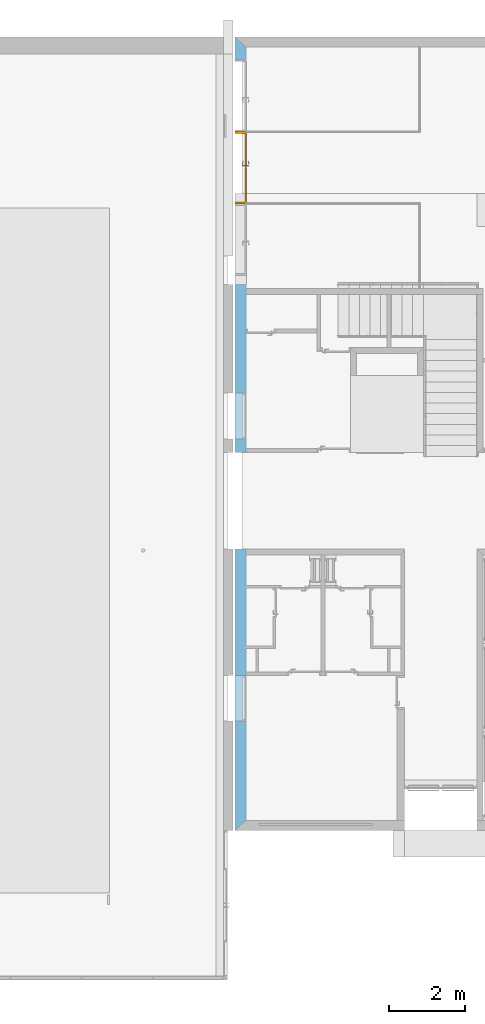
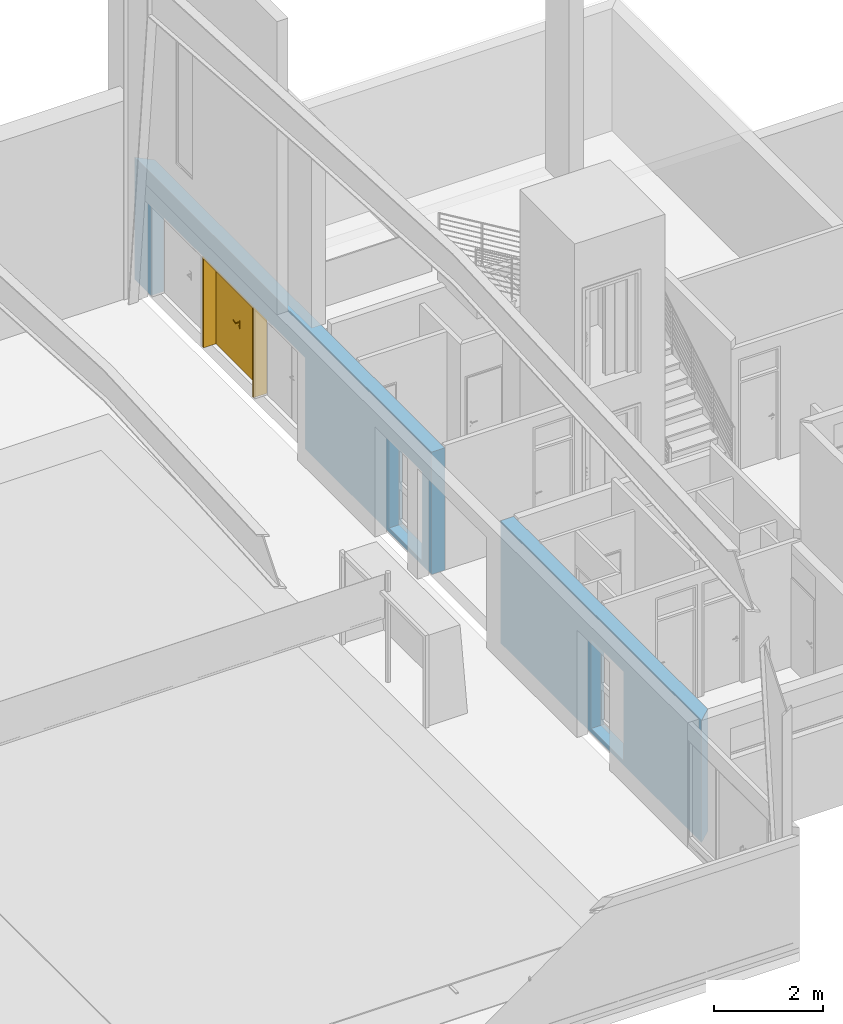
# One storey, part 35 of 45: 1 door, 6 openings, plus 1 element that does not belong to this part.
"""IFC2X3 building model written with IfcOpenShell, lengths in metres."""

from ifc_helpers import new_model, entity, si_unit, converted_unit, money_unit, direction, frame, origin_with_axes, place, context, subcontext, project, spatial, polyline, outline, extrude, open_shell, faceted_brep, surface_model, material, layer, layer_set, layer_usage, type_object, element, fill, save


model = new_model("IFC2X3")

# Units and contexts
model_context = context("Model", 3, precision=1e-05, world=origin_with_axes(), true_north=direction((0.0, 1.0)))
body_context = subcontext(model_context, "Body", "Model", "MODEL_VIEW")
ifc_project = project(units=[si_unit("LENGTHUNIT", "METRE"), si_unit("AREAUNIT", "SQUARE_METRE"), si_unit("VOLUMEUNIT", "CUBIC_METRE"), converted_unit("PLANEANGLEUNIT", "DEGREE", entity("IfcPlaneAngleMeasure", 0.0174532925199), si_unit("PLANEANGLEUNIT", "RADIAN"), dimensions=[0, 0, 0, 0, 0, 0, 0]), si_unit("SOLIDANGLEUNIT", "STERADIAN"), money_unit("EUR"), converted_unit("TIMEUNIT", "Year", entity("IfcTimeMeasure", 31556926.0), si_unit("TIMEUNIT", "SECOND"), dimensions=[0, 0, 0, 0, 0, 0, 0]), si_unit("MASSUNIT", "GRAM"), si_unit("THERMODYNAMICTEMPERATUREUNIT", "DEGREE_CELSIUS"), si_unit("LUMINOUSINTENSITYUNIT", "LUMEN")], contexts=[model_context])

# Site, building, storey
site_placement = place(None, origin_with_axes())
site = spatial("IfcSite", under=ifc_project, at=site_placement, Name="Site", CompositionType="ELEMENT")
building_placement = place(site_placement, origin_with_axes())
building = spatial("IfcBuilding", under=site, at=building_placement, Name="Bâtiment", CompositionType="ELEMENT")
storey_placement = place(building_placement, origin_with_axes())
storey = spatial("IfcBuildingStorey", under=building, at=storey_placement, Name="NIVEAU BAS GYMNASE", CompositionType="ELEMENT", Elevation=0.0)

# Wall, openings, door
ifc_material_1 = material(Name="Hachure solide* 3992800808")
ifc_layer_1 = layer(ifc_material_1, 0.02, ventilated="UNKNOWN")
ifc_material_2 = material(Name="Empty Fill 290923149")
ifc_layer_2 = layer(ifc_material_2, 0.08, ventilated="UNKNOWN")
ifc_material_3 = material(Name="Hachure solide* 2593434267")
ifc_layer_3 = layer(ifc_material_3, 0.18, ventilated="UNKNOWN")
ifc_layer_set = layer_set([ifc_layer_1, ifc_layer_2, ifc_layer_3], Name="•GYMN 18+10")
ifc_layer_usage = layer_usage(ifc_layer_set, "AXIS2", "POSITIVE", -0.28)
wall_type = type_object("IfcWallType", Name="•GYMN 18+10 280", PredefinedType="NOTDEFINED")
wall_placement = place(storey_placement, frame((45.478457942, 5.86881571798, 0.0), z_axis=(0.0, 0.0, 1.0), x_axis=(0.0, 1.0, 0.0)))
wall = element("IfcWallStandardCase", 1, at=wall_placement, inside=storey, type_object=wall_type, material=ifc_layer_usage, Name="Mur-021", context=body_context, shape_type="SweptSolid", body=[
    extrude(outline(polyline([(0.26, -0.28), (20.6103001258, -0.28), (20.8703001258, 0.0), (0.0, 0.0), (0.26, -0.28)])), origin_with_axes(), (0.0, 0.0, 1.0), 2.75),
])
opening_1_placement = place(wall_placement, frame((3.47, 0.0, 0.1), z_axis=(0.0, 0.0, 1.0), x_axis=(1.0, 0.0, 0.0)))
element("IfcOpeningElement", 2, at=opening_1_placement, cuts=wall, Name="Fen-005", context=body_context, shape_type="SweptSolid", body=[
    extrude(outline(polyline([(0.6, -2.0), (0.6, 0.0), (-0.6, 0.0), (-0.6, -2.0), (0.6, -2.0)])), frame((0.0, -0.28, 0.0), z_axis=(0.0, -1.0, 0.0), x_axis=(-1.0, 0.0, 0.0)), (0.0, 0.0, 1.0), 0.28),
    extrude(outline(polyline([(0.6, 0.0), (0.6, 2.0), (-0.6, 2.0), (-0.6, 0.0), (0.6, 0.0)])), frame((0.0, -0.28, 0.0), z_axis=(0.0, 1.0, 0.0), x_axis=(-1.0, 0.0, 0.0)), (0.0, 0.0, 1.0), 0.28),
])
opening_2_placement = place(wall_placement, frame((10.9011451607, 0.0, 0.1), z_axis=(0.0, 0.0, 1.0), x_axis=(1.0, 0.0, 0.0)))
element("IfcOpeningElement", 3, at=opening_2_placement, cuts=wall, Name="Fen-006", context=body_context, shape_type="SweptSolid", body=[
    extrude(outline(polyline([(0.6, -2.0), (0.6, 0.0), (-0.6, 0.0), (-0.6, -2.0), (0.6, -2.0)])), frame((0.0, -0.28, 0.0), z_axis=(0.0, -1.0, 0.0), x_axis=(-1.0, 0.0, 0.0)), (0.0, 0.0, 1.0), 0.28),
    extrude(outline(polyline([(0.6, 0.0), (0.6, 2.0), (-0.6, 2.0), (-0.6, 0.0), (0.6, 0.0)])), frame((0.0, -0.28, 0.0), z_axis=(0.0, 1.0, 0.0), x_axis=(-1.0, 0.0, 0.0)), (0.0, 0.0, 1.0), 0.28),
])
opening_3_placement = place(wall_placement, frame((8.67, 0.0, 0.0), z_axis=(0.0, 0.0, 1.0), x_axis=(1.0, 0.0, 0.0)))
element("IfcOpeningElement", 4, at=opening_3_placement, cuts=wall, Name="Por-001", context=body_context, shape_type="SweptSolid", body=[
    extrude(outline(polyline([(-1.27, 2.771708), (-1.27, 0.0), (1.27, 0.0), (1.27, 2.771708), (-1.27, 2.771708)])), frame((0.0, -0.28, 0.0), z_axis=(0.0, -1.0, 0.0), x_axis=(1.0, 0.0, 0.0)), (0.0, 0.0, 1.0), 0.28),
    extrude(outline(polyline([(-1.27, 0.0), (-1.27, -2.771708), (1.27, -2.771708), (1.27, 0.0), (-1.27, 0.0)])), frame((0.0, -0.28, 0.0), z_axis=(0.0, 1.0, 0.0), x_axis=(1.0, 0.0, 0.0)), (0.0, 0.0, 1.0), 0.28),
])
opening_4_placement = place(wall_placement, frame((17.4351500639, 0.0, 0.0), z_axis=(0.0, 0.0, 1.0), x_axis=(1.0, 0.0, 0.0)))
opening_4 = element("IfcOpeningElement", 5, at=opening_4_placement, cuts=wall, Name="Por-017", context=body_context, shape_type="SweptSolid", body=[
    extrude(outline(polyline([(0.945, 0.0), (-0.945, 0.0), (-0.945, -2.045), (0.945, -2.045), (0.945, 0.0)])), frame((0.0, 0.28, 0.0), z_axis=(0.0, -1.0, 0.0), x_axis=(-1.0, 0.0, 0.0)), (0.0, 0.0, 1.0), 0.56),
])
opening_5_placement = place(wall_placement, frame((19.3251500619, 0.0, 0.0), z_axis=(0.0, 0.0, 1.0), x_axis=(1.0, 0.0, 0.0)))
element("IfcOpeningElement", 6, at=opening_5_placement, cuts=wall, Name="Por-017", context=body_context, shape_type="SweptSolid", body=[
    extrude(outline(polyline([(-0.945, 0.0), (-0.945, -2.045), (0.945, -2.045), (0.945, 0.0), (-0.945, 0.0)])), frame((0.0, 0.28, 0.0), z_axis=(0.0, -1.0, 0.0), x_axis=(-1.0, 0.0, 0.0)), (0.0, 0.0, 1.0), 0.56),
])
opening_6_placement = place(wall_placement, frame((15.5451500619, 0.0, 0.0), z_axis=(0.0, 0.0, 1.0), x_axis=(1.0, 0.0, 0.0)))
element("IfcOpeningElement", 7, at=opening_6_placement, cuts=wall, Name="Por-018", context=body_context, shape_type="SweptSolid", body=[
    extrude(outline(polyline([(-0.945, 0.0), (-0.945, -2.045), (0.945, -2.045), (0.945, 0.0), (-0.945, 0.0)])), frame((0.0, 0.28, 0.0), z_axis=(0.0, -1.0, 0.0), x_axis=(-1.0, 0.0, 0.0)), (0.0, 0.0, 1.0), 0.56),
])
ifc_material_4 = material(Name="Sans Trame")
door_style = type_object("IfcDoorStyle", Name="Porte int 2v inégaux", ConstructionType="NOTDEFINED", OperationType="NOTDEFINED", ParameterTakesPrecedence=False, Sizeable=False)
door_placement = place(opening_4_placement, frame((0.945000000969, 0.0, 0.0), z_axis=(0.0, 0.0, 1.0), x_axis=(-1.0, 0.0, 0.0)))
door = element("IfcDoor", 8, at=door_placement, inside=storey, type_object=door_style, material=ifc_material_4, Name="Por-017", OverallHeight=2.045, OverallWidth=1.89, context=body_context, shape_type="SurfaceModel", body=[
    faceted_brep([(1.93714910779e-09, 0.28, 0.0), (1.93714910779e-09, 0.28, 2.045), (1.89000000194, 0.28, 2.045), (1.89000000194, 0.28, 0.0), (1.86000000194, 0.28, 0.0), (1.86000000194, 0.28, 2.015), (0.0300000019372, 0.28, 2.015), (0.0300000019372, 0.28, 0.0), (1.93714910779e-09, 0.0, 0.0), (1.93714910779e-09, 0.0, 2.045), (1.89000000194, 0.0, 2.045), (1.89000000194, 0.0, 0.0), (1.84500000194, 0.0, 0.0), (1.84500000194, 0.265, 0.0), (1.86000000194, 0.265, 0.0), (1.86000000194, 0.265, 2.015), (0.0300000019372, 0.265, 2.015), (0.0300000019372, 0.265, 0.0), (0.0450000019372, 0.265, 0.0), (0.0450000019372, 0.0, 0.0), (0.0450000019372, 0.0, 2.0), (1.84500000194, 0.0, 2.0), (1.84500000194, 0.265, 2.0), (0.0450000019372, 0.265, 2.0)], [[[0, 1, 2, 3, 4, 5, 6, 7]], [[8, 9, 1, 0]], [[9, 10, 2, 1]], [[10, 11, 3, 2]], [[3, 11, 12, 13, 14, 4]], [[5, 4, 14, 15]], [[6, 5, 15, 16]], [[7, 6, 16, 17]], [[0, 7, 17, 18, 19, 8]], [[19, 20, 21, 12, 11, 10, 9, 8]], [[22, 13, 12, 21]], [[17, 16, 15, 14, 13, 22, 23, 18]], [[18, 23, 20, 19]], [[23, 22, 21, 20]]]),
    faceted_brep([(1.86000000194, 0.295, 0.0), (1.86000000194, 0.265, 0.0), (0.950000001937, 0.265, 0.0), (0.950000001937, 0.295, 0.0), (1.86000000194, 0.295, 2.015), (1.86000000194, 0.265, 2.015), (0.950000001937, 0.265, 2.015), (0.950000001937, 0.295, 2.015)], [[[0, 1, 2, 3]], [[4, 5, 1, 0]], [[1, 5, 6, 2]], [[3, 2, 6, 7]], [[0, 3, 7, 4]], [[7, 6, 5, 4]]]),
    faceted_brep([(0.0300000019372, 0.295, 0.0), (0.945000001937, 0.295, 0.0), (0.945000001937, 0.265, 0.0), (0.0300000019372, 0.265, 0.0), (0.0300000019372, 0.295, 2.015), (0.945000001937, 0.295, 2.015), (0.945000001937, 0.265, 2.015), (0.0300000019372, 0.265, 2.015)], [[[0, 1, 2, 3]], [[0, 4, 5, 1]], [[1, 5, 6, 2]], [[3, 2, 6, 7]], [[4, 0, 3, 7]], [[5, 4, 7, 6]]]),
    faceted_brep([(0.921000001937, 0.265, 1.06), (0.864000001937, 0.265, 1.06), (0.864000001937, 0.262, 1.06), (0.921000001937, 0.262, 1.06), (0.921000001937, 0.265, 0.87), (0.864000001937, 0.265, 0.87), (0.864000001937, 0.262, 0.87), (0.921000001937, 0.262, 0.87)], [[[0, 1, 2, 3]], [[0, 4, 5, 1]], [[1, 5, 6, 2]], [[3, 2, 6, 7]], [[4, 0, 3, 7]], [[5, 4, 7, 6]]]),
    surface_model("IfcShellBasedSurfaceModel", [(0.892500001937, 0.201, 0.99), (0.896327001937, 0.201, 0.990761), (0.896327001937, 0.194, 0.990761), (0.892500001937, 0.194, 0.99), (0.867500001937, 0.201, 0.99), (0.867500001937, 0.201, 1.01), (0.892500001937, 0.201, 1.01), (0.896327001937, 0.201, 1.009239), (0.899571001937, 0.201, 1.007071), (0.901739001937, 0.201, 1.003827), (0.902500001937, 0.201, 1.0), (0.901739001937, 0.201, 0.996173), (0.899571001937, 0.201, 0.992929), (0.899571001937, 0.194, 0.992929), (0.901739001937, 0.194, 0.996173), (0.902500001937, 0.194, 1.0), (0.901739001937, 0.194, 1.003827), (0.899571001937, 0.194, 1.007071), (0.896327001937, 0.194, 1.009239), (0.892500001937, 0.194, 1.01), (0.867500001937, 0.194, 1.01), (0.867500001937, 0.194, 0.99)], [open_shell([[[0, 1, 2, 3]], [[0, 4, 5, 6, 7, 8, 9, 10, 11, 12, 1]], [[1, 12, 13, 2]], [[3, 2, 13, 14, 15, 16, 17, 18, 19, 20, 21]], [[4, 0, 3, 21]], [[6, 5, 20, 19]], [[7, 6, 19, 18]], [[8, 7, 18, 17]], [[9, 8, 17, 16]], [[10, 9, 16, 15]], [[11, 10, 15, 14]], [[12, 11, 14, 13]]])]),
    surface_model("IfcShellBasedSurfaceModel", [(0.867500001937, 0.201, 1.01), (0.854402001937, 0.201, 1.009607), (0.854096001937, 0.194, 1.009607), (0.867500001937, 0.201, 0.99), (0.854402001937, 0.201, 0.990393), (0.827390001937, 0.196336, 1.008822), (0.867500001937, 0.194, 1.01), (0.867500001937, 0.194, 0.99), (0.828305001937, 0.203283, 0.991178), (0.828305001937, 0.203283, 1.008822), (0.827390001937, 0.196336, 0.991178), (0.854096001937, 0.194, 0.990393), (0.802506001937, 0.207832, 0.991963), (0.802506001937, 0.207832, 1.008037), (0.800990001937, 0.200992, 1.008037), (0.800990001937, 0.200992, 0.991963), (0.777202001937, 0.214612, 0.992749), (0.777202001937, 0.214612, 1.007251), (0.775095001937, 0.20793, 1.007251), (0.775095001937, 0.20793, 0.992749), (0.769329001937, 0.217478, 0.993), (0.769329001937, 0.217478, 1.007), (0.767039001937, 0.210862, 1.007), (0.767039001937, 0.210862, 0.993)], [open_shell([[[0, 1, 2]], [[0, 3, 4, 1]], [[1, 5, 2]], [[0, 2, 6]], [[4, 3, 7]], [[1, 4, 8, 9]], [[1, 9, 5]], [[2, 5, 10, 11]], [[6, 2, 11, 7]], [[4, 7, 11]], [[8, 4, 11]], [[9, 8, 12, 13]], [[9, 14, 5]], [[5, 14, 15, 10]], [[8, 11, 10]], [[12, 8, 10]], [[13, 12, 16, 17]], [[9, 13, 14]], [[14, 18, 19, 15]], [[12, 10, 15]], [[16, 12, 15]], [[17, 16, 20, 21]], [[13, 17, 18]], [[13, 18, 14]], [[18, 22, 23, 19]], [[16, 15, 19]], [[20, 16, 19]], [[21, 20, 23, 22]], [[17, 21, 22]], [[17, 22, 18]], [[20, 19, 23]]])]),
    faceted_brep([(0.881413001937, 0.252, 0.995408), (0.880500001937, 0.252, 1.0), (0.879500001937, 0.262, 1.0), (0.880490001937, 0.262, 0.995025), (0.884015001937, 0.252, 0.991515), (0.887908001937, 0.252, 0.988913), (0.892500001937, 0.252, 0.988), (0.897092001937, 0.252, 0.988913), (0.900985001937, 0.252, 0.991515), (0.903587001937, 0.252, 0.995408), (0.904500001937, 0.252, 1.0), (0.903587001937, 0.252, 1.004592), (0.900985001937, 0.252, 1.008485), (0.897092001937, 0.252, 1.011087), (0.892500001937, 0.252, 1.012), (0.887908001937, 0.252, 1.011087), (0.884015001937, 0.252, 1.008485), (0.881413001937, 0.252, 1.004592), (0.880490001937, 0.262, 1.004975), (0.883308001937, 0.262, 1.009192), (0.887525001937, 0.262, 1.01201), (0.892500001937, 0.262, 1.013), (0.897475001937, 0.262, 1.01201), (0.901692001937, 0.262, 1.009192), (0.904510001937, 0.262, 1.004975), (0.905500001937, 0.262, 1.0), (0.904510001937, 0.262, 0.995025), (0.901692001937, 0.262, 0.990808), (0.897475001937, 0.262, 0.98799), (0.892500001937, 0.262, 0.987), (0.887525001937, 0.262, 0.98799), (0.883308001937, 0.262, 0.990808)], [[[0, 1, 2, 3]], [[1, 0, 4, 5, 6, 7, 8, 9, 10, 11, 12, 13, 14, 15, 16, 17]], [[1, 17, 18, 2]], [[2, 18, 19, 20, 21, 22, 23, 24, 25, 26, 27, 28, 29, 30, 31, 3]], [[4, 0, 3, 31]], [[5, 4, 31, 30]], [[6, 5, 30, 29]], [[7, 6, 29, 28]], [[8, 7, 28, 27]], [[9, 8, 27, 26]], [[10, 9, 26, 25]], [[11, 10, 25, 24]], [[12, 11, 24, 23]], [[13, 12, 23, 22]], [[14, 13, 22, 21]], [[15, 14, 21, 20]], [[16, 15, 20, 19]], [[17, 16, 19, 18]]]),
    faceted_brep([(0.874022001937, 0.258, 0.897346), (0.872500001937, 0.258, 0.905), (0.870500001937, 0.262, 0.905), (0.872175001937, 0.262, 0.896581), (0.878358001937, 0.258, 0.890858), (0.884846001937, 0.258, 0.886522), (0.892500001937, 0.258, 0.885), (0.900154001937, 0.258, 0.886522), (0.906642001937, 0.258, 0.890858), (0.910978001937, 0.258, 0.897346), (0.912500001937, 0.258, 0.905), (0.910978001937, 0.258, 0.912654), (0.906642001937, 0.258, 0.919142), (0.900154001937, 0.258, 0.923478), (0.892500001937, 0.258, 0.925), (0.884846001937, 0.258, 0.923478), (0.878358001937, 0.258, 0.919142), (0.874022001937, 0.258, 0.912654), (0.872175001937, 0.262, 0.913419), (0.876944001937, 0.262, 0.920556), (0.884081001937, 0.262, 0.925325), (0.892500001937, 0.262, 0.927), (0.900919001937, 0.262, 0.925325), (0.908056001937, 0.262, 0.920556), (0.912825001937, 0.262, 0.913419), (0.914500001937, 0.262, 0.905), (0.912825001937, 0.262, 0.896581), (0.908056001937, 0.262, 0.889444), (0.900919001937, 0.262, 0.884675), (0.892500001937, 0.262, 0.883), (0.884081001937, 0.262, 0.884675), (0.876944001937, 0.262, 0.889444)], [[[0, 1, 2, 3]], [[1, 0, 4, 5, 6, 7, 8, 9, 10, 11, 12, 13, 14, 15, 16, 17]], [[1, 17, 18, 2]], [[2, 18, 19, 20, 21, 22, 23, 24, 25, 26, 27, 28, 29, 30, 31, 3]], [[4, 0, 3, 31]], [[5, 4, 31, 30]], [[6, 5, 30, 29]], [[7, 6, 29, 28]], [[8, 7, 28, 27]], [[9, 8, 27, 26]], [[10, 9, 26, 25]], [[11, 10, 25, 24]], [[12, 11, 24, 23]], [[13, 12, 23, 22]], [[14, 13, 22, 21]], [[15, 14, 21, 20]], [[16, 15, 20, 19]], [[17, 16, 19, 18]]]),
    faceted_brep([(0.886033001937, 0.256, 0.911321), (0.885500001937, 0.256, 0.914), (0.884500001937, 0.258, 0.914), (0.885109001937, 0.258, 0.910939), (0.887550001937, 0.256, 0.90905), (0.889821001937, 0.256, 0.907533), (0.892500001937, 0.256, 0.907), (0.895179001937, 0.256, 0.907533), (0.897450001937, 0.256, 0.90905), (0.898967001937, 0.256, 0.911321), (0.899500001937, 0.256, 0.914), (0.898967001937, 0.256, 0.916679), (0.897450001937, 0.256, 0.91895), (0.895179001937, 0.256, 0.920467), (0.892500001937, 0.256, 0.921), (0.889821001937, 0.256, 0.920467), (0.887550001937, 0.256, 0.91895), (0.886033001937, 0.256, 0.916679), (0.885109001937, 0.258, 0.917061), (0.886843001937, 0.258, 0.919657), (0.889439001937, 0.258, 0.921391), (0.892500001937, 0.258, 0.922), (0.895561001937, 0.258, 0.921391), (0.898157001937, 0.258, 0.919657), (0.899891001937, 0.258, 0.917061), (0.900500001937, 0.258, 0.914), (0.899891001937, 0.258, 0.910939), (0.898157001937, 0.258, 0.908343), (0.895561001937, 0.258, 0.906609), (0.892500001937, 0.258, 0.906), (0.889439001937, 0.258, 0.906609), (0.886843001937, 0.258, 0.908343)], [[[0, 1, 2, 3]], [[1, 0, 4, 5, 6, 7, 8, 9, 10, 11, 12, 13, 14, 15, 16, 17]], [[1, 17, 18, 2]], [[2, 18, 19, 20, 21, 22, 23, 24, 25, 26, 27, 28, 29, 30, 31, 3]], [[4, 0, 3, 31]], [[5, 4, 31, 30]], [[6, 5, 30, 29]], [[7, 6, 29, 28]], [[8, 7, 28, 27]], [[9, 8, 27, 26]], [[10, 9, 26, 25]], [[11, 10, 25, 24]], [[12, 11, 24, 23]], [[13, 12, 23, 22]], [[14, 13, 22, 21]], [[15, 14, 21, 20]], [[16, 15, 20, 19]], [[17, 16, 19, 18]]]),
    faceted_brep([(0.892500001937, 0.252, 1.01), (0.888673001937, 0.252, 1.009239), (0.888673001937, 0.201, 1.009239), (0.892500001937, 0.201, 1.01), (0.896327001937, 0.252, 1.009239), (0.899571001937, 0.252, 1.007071), (0.901739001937, 0.252, 1.003827), (0.902500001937, 0.252, 1.0), (0.901739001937, 0.252, 0.996173), (0.899571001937, 0.252, 0.992929), (0.896327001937, 0.252, 0.990761), (0.892500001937, 0.252, 0.99), (0.888673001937, 0.252, 0.990761), (0.885429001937, 0.252, 0.992929), (0.883261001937, 0.252, 0.996173), (0.882500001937, 0.252, 1.0), (0.883261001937, 0.252, 1.003827), (0.885429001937, 0.252, 1.007071), (0.885429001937, 0.201, 1.007071), (0.883261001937, 0.201, 1.003827), (0.882500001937, 0.201, 1.0), (0.883261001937, 0.201, 0.996173), (0.885429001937, 0.201, 0.992929), (0.888673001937, 0.201, 0.990761), (0.892500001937, 0.201, 0.99), (0.896327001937, 0.201, 0.990761), (0.899571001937, 0.201, 0.992929), (0.901739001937, 0.201, 0.996173), (0.902500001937, 0.201, 1.0), (0.901739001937, 0.201, 1.003827), (0.899571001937, 0.201, 1.007071), (0.896327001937, 0.201, 1.009239)], [[[0, 1, 2, 3]], [[0, 4, 5, 6, 7, 8, 9, 10, 11, 12, 13, 14, 15, 16, 17, 1]], [[1, 17, 18, 2]], [[3, 2, 18, 19, 20, 21, 22, 23, 24, 25, 26, 27, 28, 29, 30, 31]], [[4, 0, 3, 31]], [[5, 4, 31, 30]], [[6, 5, 30, 29]], [[7, 6, 29, 28]], [[8, 7, 28, 27]], [[9, 8, 27, 26]], [[10, 9, 26, 25]], [[11, 10, 25, 24]], [[12, 11, 24, 23]], [[13, 12, 23, 22]], [[14, 13, 22, 21]], [[15, 14, 21, 20]], [[16, 15, 20, 19]], [[17, 16, 19, 18]]]),
    faceted_brep([(0.921000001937, 0.295, 1.06), (0.921000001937, 0.298, 1.06), (0.864000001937, 0.298, 1.06), (0.864000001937, 0.295, 1.06), (0.921000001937, 0.295, 0.87), (0.921000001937, 0.298, 0.87), (0.864000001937, 0.298, 0.87), (0.864000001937, 0.295, 0.87)], [[[0, 1, 2, 3]], [[4, 5, 1, 0]], [[1, 5, 6, 2]], [[3, 2, 6, 7]], [[0, 3, 7, 4]], [[7, 6, 5, 4]]]),
    surface_model("IfcShellBasedSurfaceModel", [(0.892500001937, 0.359, 0.99), (0.892500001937, 0.366, 0.99), (0.896327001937, 0.366, 0.990761), (0.896327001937, 0.359, 0.990761), (0.867500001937, 0.359, 0.99), (0.867500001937, 0.366, 0.99), (0.867500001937, 0.366, 1.01), (0.892500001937, 0.366, 1.01), (0.896327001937, 0.366, 1.009239), (0.899571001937, 0.366, 1.007071), (0.901739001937, 0.366, 1.003827), (0.902500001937, 0.366, 1.0), (0.901739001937, 0.366, 0.996173), (0.899571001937, 0.366, 0.992929), (0.899571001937, 0.359, 0.992929), (0.901739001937, 0.359, 0.996173), (0.902500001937, 0.359, 1.0), (0.901739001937, 0.359, 1.003827), (0.899571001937, 0.359, 1.007071), (0.896327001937, 0.359, 1.009239), (0.892500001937, 0.359, 1.01), (0.867500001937, 0.359, 1.01)], [open_shell([[[0, 1, 2, 3]], [[4, 5, 1, 0]], [[1, 5, 6, 7, 8, 9, 10, 11, 12, 13, 2]], [[3, 2, 13, 14]], [[0, 3, 14, 15, 16, 17, 18, 19, 20, 21, 4]], [[20, 7, 6, 21]], [[19, 8, 7, 20]], [[18, 9, 8, 19]], [[17, 10, 9, 18]], [[16, 11, 10, 17]], [[15, 12, 11, 16]], [[14, 13, 12, 15]]])]),
    surface_model("IfcShellBasedSurfaceModel", [(0.867500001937, 0.359, 1.01), (0.854096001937, 0.366, 1.009607), (0.854402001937, 0.359, 1.009607), (0.867500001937, 0.366, 1.01), (0.827390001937, 0.363664, 1.008822), (0.854402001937, 0.359, 0.990393), (0.867500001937, 0.359, 0.99), (0.867500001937, 0.366, 0.99), (0.854096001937, 0.366, 0.990393), (0.827390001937, 0.363664, 0.991178), (0.828305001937, 0.356717, 1.008822), (0.828305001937, 0.356717, 0.991178), (0.800990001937, 0.359008, 0.991963), (0.800990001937, 0.359008, 1.008037), (0.802506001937, 0.352168, 1.008037), (0.802506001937, 0.352168, 0.991963), (0.775095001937, 0.35207, 0.992749), (0.775095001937, 0.35207, 1.007251), (0.777202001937, 0.345388, 1.007251), (0.777202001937, 0.345388, 0.992749), (0.767039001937, 0.349138, 0.993), (0.767039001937, 0.349138, 1.007), (0.769329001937, 0.342522, 1.007), (0.769329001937, 0.342522, 0.993)], [open_shell([[[0, 1, 2]], [[0, 3, 1]], [[2, 1, 4]], [[0, 2, 5, 6]], [[3, 7, 8, 1]], [[1, 8, 9, 4]], [[2, 4, 10]], [[2, 10, 11, 5]], [[5, 7, 6]], [[5, 8, 7]], [[11, 9, 8]], [[4, 9, 12, 13]], [[10, 4, 13]], [[10, 14, 15, 11]], [[11, 8, 5]], [[15, 9, 11]], [[15, 12, 9]], [[13, 12, 16, 17]], [[10, 13, 14]], [[14, 18, 19, 15]], [[19, 12, 15]], [[19, 16, 12]], [[17, 16, 20, 21]], [[14, 13, 17]], [[14, 17, 18]], [[18, 22, 23, 19]], [[23, 16, 19]], [[23, 20, 16]], [[22, 21, 20, 23]], [[18, 17, 21]], [[18, 21, 22]]])]),
    faceted_brep([(0.881413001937, 0.308, 0.995408), (0.880490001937, 0.298, 0.995025), (0.879500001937, 0.298, 1.0), (0.880500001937, 0.308, 1.0), (0.884015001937, 0.308, 0.991515), (0.883308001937, 0.298, 0.990808), (0.887525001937, 0.298, 0.98799), (0.892500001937, 0.298, 0.987), (0.897475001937, 0.298, 0.98799), (0.901692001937, 0.298, 0.990808), (0.904510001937, 0.298, 0.995025), (0.905500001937, 0.298, 1.0), (0.904510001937, 0.298, 1.004975), (0.901692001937, 0.298, 1.009192), (0.897475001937, 0.298, 1.01201), (0.892500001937, 0.298, 1.013), (0.887525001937, 0.298, 1.01201), (0.883308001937, 0.298, 1.009192), (0.880490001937, 0.298, 1.004975), (0.881413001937, 0.308, 1.004592), (0.884015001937, 0.308, 1.008485), (0.887908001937, 0.308, 1.011087), (0.892500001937, 0.308, 1.012), (0.897092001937, 0.308, 1.011087), (0.900985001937, 0.308, 1.008485), (0.903587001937, 0.308, 1.004592), (0.904500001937, 0.308, 1.0), (0.903587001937, 0.308, 0.995408), (0.900985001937, 0.308, 0.991515), (0.897092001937, 0.308, 0.988913), (0.892500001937, 0.308, 0.988), (0.887908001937, 0.308, 0.988913)], [[[0, 1, 2, 3]], [[4, 5, 1, 0]], [[2, 1, 5, 6, 7, 8, 9, 10, 11, 12, 13, 14, 15, 16, 17, 18]], [[3, 2, 18, 19]], [[3, 19, 20, 21, 22, 23, 24, 25, 26, 27, 28, 29, 30, 31, 4, 0]], [[31, 6, 5, 4]], [[30, 7, 6, 31]], [[29, 8, 7, 30]], [[28, 9, 8, 29]], [[27, 10, 9, 28]], [[26, 11, 10, 27]], [[25, 12, 11, 26]], [[24, 13, 12, 25]], [[23, 14, 13, 24]], [[22, 15, 14, 23]], [[21, 16, 15, 22]], [[20, 17, 16, 21]], [[19, 18, 17, 20]]]),
    faceted_brep([(0.874022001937, 0.302, 0.897346), (0.872175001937, 0.298, 0.896581), (0.870500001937, 0.298, 0.905), (0.872500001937, 0.302, 0.905), (0.878358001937, 0.302, 0.890858), (0.876944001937, 0.298, 0.889444), (0.884081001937, 0.298, 0.884675), (0.892500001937, 0.298, 0.883), (0.900919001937, 0.298, 0.884675), (0.908056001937, 0.298, 0.889444), (0.912825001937, 0.298, 0.896581), (0.914500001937, 0.298, 0.905), (0.912825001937, 0.298, 0.913419), (0.908056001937, 0.298, 0.920556), (0.900919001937, 0.298, 0.925325), (0.892500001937, 0.298, 0.927), (0.884081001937, 0.298, 0.925325), (0.876944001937, 0.298, 0.920556), (0.872175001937, 0.298, 0.913419), (0.874022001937, 0.302, 0.912654), (0.878358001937, 0.302, 0.919142), (0.884846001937, 0.302, 0.923478), (0.892500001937, 0.302, 0.925), (0.900154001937, 0.302, 0.923478), (0.906642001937, 0.302, 0.919142), (0.910978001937, 0.302, 0.912654), (0.912500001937, 0.302, 0.905), (0.910978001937, 0.302, 0.897346), (0.906642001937, 0.302, 0.890858), (0.900154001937, 0.302, 0.886522), (0.892500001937, 0.302, 0.885), (0.884846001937, 0.302, 0.886522)], [[[0, 1, 2, 3]], [[4, 5, 1, 0]], [[2, 1, 5, 6, 7, 8, 9, 10, 11, 12, 13, 14, 15, 16, 17, 18]], [[3, 2, 18, 19]], [[3, 19, 20, 21, 22, 23, 24, 25, 26, 27, 28, 29, 30, 31, 4, 0]], [[31, 6, 5, 4]], [[30, 7, 6, 31]], [[29, 8, 7, 30]], [[28, 9, 8, 29]], [[27, 10, 9, 28]], [[26, 11, 10, 27]], [[25, 12, 11, 26]], [[24, 13, 12, 25]], [[23, 14, 13, 24]], [[22, 15, 14, 23]], [[21, 16, 15, 22]], [[20, 17, 16, 21]], [[19, 18, 17, 20]]]),
    faceted_brep([(0.886033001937, 0.304, 0.911321), (0.885109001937, 0.302, 0.910939), (0.884500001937, 0.302, 0.914), (0.885500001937, 0.304, 0.914), (0.887550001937, 0.304, 0.90905), (0.886843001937, 0.302, 0.908343), (0.889439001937, 0.302, 0.906609), (0.892500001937, 0.302, 0.906), (0.895561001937, 0.302, 0.906609), (0.898157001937, 0.302, 0.908343), (0.899891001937, 0.302, 0.910939), (0.900500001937, 0.302, 0.914), (0.899891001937, 0.302, 0.917061), (0.898157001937, 0.302, 0.919657), (0.895561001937, 0.302, 0.921391), (0.892500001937, 0.302, 0.922), (0.889439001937, 0.302, 0.921391), (0.886843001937, 0.302, 0.919657), (0.885109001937, 0.302, 0.917061), (0.886033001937, 0.304, 0.916679), (0.887550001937, 0.304, 0.91895), (0.889821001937, 0.304, 0.920467), (0.892500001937, 0.304, 0.921), (0.895179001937, 0.304, 0.920467), (0.897450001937, 0.304, 0.91895), (0.898967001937, 0.304, 0.916679), (0.899500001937, 0.304, 0.914), (0.898967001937, 0.304, 0.911321), (0.897450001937, 0.304, 0.90905), (0.895179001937, 0.304, 0.907533), (0.892500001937, 0.304, 0.907), (0.889821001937, 0.304, 0.907533)], [[[0, 1, 2, 3]], [[4, 5, 1, 0]], [[2, 1, 5, 6, 7, 8, 9, 10, 11, 12, 13, 14, 15, 16, 17, 18]], [[3, 2, 18, 19]], [[3, 19, 20, 21, 22, 23, 24, 25, 26, 27, 28, 29, 30, 31, 4, 0]], [[31, 6, 5, 4]], [[30, 7, 6, 31]], [[29, 8, 7, 30]], [[28, 9, 8, 29]], [[27, 10, 9, 28]], [[26, 11, 10, 27]], [[25, 12, 11, 26]], [[24, 13, 12, 25]], [[23, 14, 13, 24]], [[22, 15, 14, 23]], [[21, 16, 15, 22]], [[20, 17, 16, 21]], [[19, 18, 17, 20]]]),
    faceted_brep([(0.892500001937, 0.308, 1.01), (0.892500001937, 0.359, 1.01), (0.888673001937, 0.359, 1.009239), (0.888673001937, 0.308, 1.009239), (0.896327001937, 0.308, 1.009239), (0.896327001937, 0.359, 1.009239), (0.899571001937, 0.359, 1.007071), (0.901739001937, 0.359, 1.003827), (0.902500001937, 0.359, 1.0), (0.901739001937, 0.359, 0.996173), (0.899571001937, 0.359, 0.992929), (0.896327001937, 0.359, 0.990761), (0.892500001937, 0.359, 0.99), (0.888673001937, 0.359, 0.990761), (0.885429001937, 0.359, 0.992929), (0.883261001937, 0.359, 0.996173), (0.882500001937, 0.359, 1.0), (0.883261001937, 0.359, 1.003827), (0.885429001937, 0.359, 1.007071), (0.885429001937, 0.308, 1.007071), (0.883261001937, 0.308, 1.003827), (0.882500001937, 0.308, 1.0), (0.883261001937, 0.308, 0.996173), (0.885429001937, 0.308, 0.992929), (0.888673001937, 0.308, 0.990761), (0.892500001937, 0.308, 0.99), (0.896327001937, 0.308, 0.990761), (0.899571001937, 0.308, 0.992929), (0.901739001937, 0.308, 0.996173), (0.902500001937, 0.308, 1.0), (0.901739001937, 0.308, 1.003827), (0.899571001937, 0.308, 1.007071)], [[[0, 1, 2, 3]], [[4, 5, 1, 0]], [[1, 5, 6, 7, 8, 9, 10, 11, 12, 13, 14, 15, 16, 17, 18, 2]], [[3, 2, 18, 19]], [[0, 3, 19, 20, 21, 22, 23, 24, 25, 26, 27, 28, 29, 30, 31, 4]], [[31, 6, 5, 4]], [[30, 7, 6, 31]], [[29, 8, 7, 30]], [[28, 9, 8, 29]], [[27, 10, 9, 28]], [[26, 11, 10, 27]], [[25, 12, 11, 26]], [[24, 13, 12, 25]], [[23, 14, 13, 24]], [[22, 15, 14, 23]], [[21, 16, 15, 22]], [[20, 17, 16, 21]], [[19, 18, 17, 20]]]),
    faceted_brep([(0.930000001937, 0.3, 0.0), (0.930000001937, 0.3, 2.015), (0.960000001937, 0.3, 2.015), (0.960000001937, 0.3, 0.0), (0.930000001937, 0.295, 0.0), (0.930000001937, 0.295, 2.015), (0.960000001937, 0.295, 2.015), (0.960000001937, 0.295, 0.0)], [[[0, 1, 2, 3]], [[0, 4, 5, 1]], [[1, 5, 6, 2]], [[2, 6, 7, 3]], [[3, 7, 4, 0]], [[7, 6, 5, 4]]]),
])
fill(opening_4, door)

save(model, "model.ifc")
